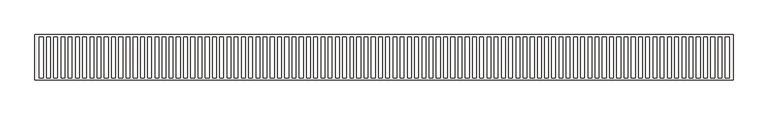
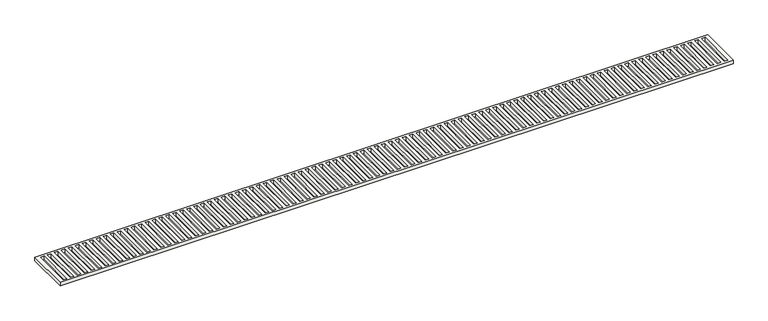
"""IFC4 building model written with IfcOpenShell, lengths in millimetres: slab geometry, REGUERA_METÁLICA3 : REGUERA_METÁLICA-03."""

from ifc_helpers import new_model, si_unit, frame, origin, place, context, project, spatial, polyline, outline, extrude, source, transform, mapped, element, save


def slab_2fa19d57(model_context):
    return source(origin(), model_context, "Body", "SweptSolid", [
        extrude(outline(polyline([(-5970.0557705, -10500.5617629), (3227.1464348, -10500.5617629), (3227.1464348, -11100.4621908), (-5970.0557705, -11100.4621908), (-5970.0557705, -10500.5617629)]), holes=[polyline([(653.3155136, -10530.5865708), (653.3155136, -11070.5399406), (696.8338857, -11070.5399406), (696.8338857, -10530.5865708), (653.3155136, -10530.5865708)]), polyline([(744.4588857, -10530.5865708), (744.4588857, -11070.5471391), (792.0838857, -11070.5471391), (792.0838857, -10530.5865708), (744.4588857, -10530.5865708)]), polyline([(839.7088857, -10530.5865708), (839.7088857, -11070.5471391), (887.3338857, -11070.5471391), (887.3338857, -10530.5865708), (839.7088857, -10530.5865708)]), polyline([(934.9588857, -10530.5865708), (934.9588857, -11070.5471391), (982.5838857, -11070.5471391), (982.5838857, -10530.5865708), (934.9588857, -10530.5865708)]), polyline([(1030.2088857, -10530.5865708), (1030.2088857, -11070.5471391), (1077.8338857, -11070.5471391), (1077.8338857, -10530.5865708), (1030.2088857, -10530.5865708)]), polyline([(1125.4588857, -10530.5865708), (1125.4588857, -11070.5471391), (1173.0838857, -11070.5471391), (1173.0838857, -10530.5865708), (1125.4588857, -10530.5865708)]), polyline([(1220.7088857, -10530.5865708), (1220.7088857, -11070.5471391), (1268.3338857, -11070.5471391), (1268.3338857, -10530.5865708), (1220.7088857, -10530.5865708)]), polyline([(1315.9588857, -10530.5865708), (1315.9588857, -11070.5471391), (1363.5838857, -11070.5471391), (1363.5838857, -10530.5865708), (1315.9588857, -10530.5865708)]), polyline([(1411.2088857, -10530.5865708), (1411.2088857, -11070.5471391), (1458.8338857, -11070.5471391), (1458.8338857, -10530.5865708), (1411.2088857, -10530.5865708)]), polyline([(1506.4588857, -10530.5865708), (1506.4588857, -11070.5471391), (1554.0838857, -11070.5471391), (1554.0838857, -10530.5865708), (1506.4588857, -10530.5865708)]), polyline([(1601.7088857, -10530.5865708), (1601.7088857, -11070.5471391), (1649.3338857, -11070.5471391), (1649.3338857, -10530.5865708), (1601.7088857, -10530.5865708)]), polyline([(1696.9588857, -10530.5865708), (1696.9588857, -11070.5471391), (1744.5838857, -11070.5471391), (1744.5838857, -10530.5865708), (1696.9588857, -10530.5865708)]), polyline([(1792.2088857, -10530.5865708), (1792.2088857, -11070.5471391), (1839.8338857, -11070.5471391), (1839.8338857, -10530.5865708), (1792.2088857, -10530.5865708)]), polyline([(1887.4588857, -10530.5865708), (1887.4588857, -11070.5471391), (1935.0838857, -11070.5471391), (1935.0838857, -10530.5865708), (1887.4588857, -10530.5865708)]), polyline([(1982.7088857, -10530.5865708), (1982.7088857, -11070.5471391), (2030.3338857, -11070.5471391), (2030.3338857, -10530.5865708), (1982.7088857, -10530.5865708)]), polyline([(2077.9588857, -10530.5865708), (2077.9588857, -11070.5471391), (2125.5838857, -11070.5471391), (2125.5838857, -10530.5865708), (2077.9588857, -10530.5865708)]), polyline([(2173.2088857, -10530.5865708), (2173.2088857, -11070.5471391), (2220.8338857, -11070.5471391), (2220.8338857, -10530.5865708), (2173.2088857, -10530.5865708)]), polyline([(2268.4588857, -10530.5865708), (2268.4588857, -11070.5471391), (2316.0838857, -11070.5471391), (2316.0838857, -10530.5865708), (2268.4588857, -10530.5865708)]), polyline([(2363.7088857, -10530.5865708), (2363.7088857, -11070.5471391), (2411.3338857, -11070.5471391), (2411.3338857, -10530.5865708), (2363.7088857, -10530.5865708)]), polyline([(2458.9588857, -10530.5865708), (2458.9588857, -11070.5471391), (2506.5838857, -11070.5471391), (2506.5838857, -10530.5865708), (2458.9588857, -10530.5865708)]), polyline([(2554.2088857, -10530.5865708), (2554.2088857, -11070.5471391), (2601.8338857, -11070.5471391), (2601.8338857, -10530.5865708), (2554.2088857, -10530.5865708)]), polyline([(2649.4588857, -10530.5865708), (2649.4588857, -11070.5471391), (2697.0838857, -11070.5471391), (2697.0838857, -10530.5865708), (2649.4588857, -10530.5865708)]), polyline([(2744.7088857, -10530.5865708), (2744.7088857, -11070.5471391), (2792.3338857, -11070.5471391), (2792.3338857, -10530.5865708), (2744.7088857, -10530.5865708)]), polyline([(2839.9588857, -10530.5865708), (2839.9588857, -11070.5471391), (2887.5838857, -11070.5471391), (2887.5838857, -10530.5865708), (2839.9588857, -10530.5865708)]), polyline([(2935.2088857, -10530.5865708), (2935.2088857, -11070.5471391), (2982.8338857, -11070.5471391), (2982.8338857, -10530.5865708), (2935.2088857, -10530.5865708)]), polyline([(3030.4588857, -10530.5865708), (3030.4588857, -11070.5471391), (3078.0838857, -11070.5471391), (3078.0838857, -10530.5865708), (3030.4588857, -10530.5865708)]), polyline([(3125.7088857, -10530.5865708), (3125.7088857, -11070.5471391), (3173.3338857, -11070.5471391), (3173.3338857, -10530.5865708), (3125.7088857, -10530.5865708)]), polyline([(-1819.0778585, -10530.5865708), (-1819.0778585, -11070.5399406), (-1775.5594864, -11070.5399406), (-1775.5594864, -10530.5865708), (-1819.0778585, -10530.5865708)]), polyline([(-1727.9344864, -10530.5865708), (-1727.9344864, -11070.5471391), (-1680.3094864, -11070.5471391), (-1680.3094864, -10530.5865708), (-1727.9344864, -10530.5865708)]), polyline([(-1632.6844864, -10530.5865708), (-1632.6844864, -11070.5471391), (-1585.0594864, -11070.5471391), (-1585.0594864, -10530.5865708), (-1632.6844864, -10530.5865708)]), polyline([(-1537.4344864, -10530.5865708), (-1537.4344864, -11070.5471391), (-1489.8094864, -11070.5471391), (-1489.8094864, -10530.5865708), (-1537.4344864, -10530.5865708)]), polyline([(-1442.1844864, -10530.5865708), (-1442.1844864, -11070.5471391), (-1394.5594864, -11070.5471391), (-1394.5594864, -10530.5865708), (-1442.1844864, -10530.5865708)]), polyline([(-1346.9344864, -10530.5865708), (-1346.9344864, -11070.5471391), (-1299.3094864, -11070.5471391), (-1299.3094864, -10530.5865708), (-1346.9344864, -10530.5865708)]), polyline([(-1251.6844864, -10530.5865708), (-1251.6844864, -11070.5471391), (-1204.0594864, -11070.5471391), (-1204.0594864, -10530.5865708), (-1251.6844864, -10530.5865708)]), polyline([(-1156.4344864, -10530.5865708), (-1156.4344864, -11070.5471391), (-1108.8094864, -11070.5471391), (-1108.8094864, -10530.5865708), (-1156.4344864, -10530.5865708)]), polyline([(-1061.1844864, -10530.5865708), (-1061.1844864, -11070.5471391), (-1013.5594864, -11070.5471391), (-1013.5594864, -10530.5865708), (-1061.1844864, -10530.5865708)]), polyline([(-965.9344864, -10530.5865708), (-965.9344864, -11070.5471391), (-918.3094864, -11070.5471391), (-918.3094864, -10530.5865708), (-965.9344864, -10530.5865708)]), polyline([(-870.6844864, -10530.5865708), (-870.6844864, -11070.5471391), (-823.0594864, -11070.5471391), (-823.0594864, -10530.5865708), (-870.6844864, -10530.5865708)]), polyline([(-775.4344864, -10530.5865708), (-775.4344864, -11070.5471391), (-727.8094864, -11070.5471391), (-727.8094864, -10530.5865708), (-775.4344864, -10530.5865708)]), polyline([(-680.1844864, -10530.5865708), (-680.1844864, -11070.5471391), (-632.5594864, -11070.5471391), (-632.5594864, -10530.5865708), (-680.1844864, -10530.5865708)]), polyline([(-584.9344864, -10530.5865708), (-584.9344864, -11070.5471391), (-537.3094864, -11070.5471391), (-537.3094864, -10530.5865708), (-584.9344864, -10530.5865708)]), polyline([(-489.6844864, -10530.5865708), (-489.6844864, -11070.5471391), (-442.0594864, -11070.5471391), (-442.0594864, -10530.5865708), (-489.6844864, -10530.5865708)]), polyline([(-394.4344864, -10530.5865708), (-394.4344864, -11070.5471391), (-346.8094864, -11070.5471391), (-346.8094864, -10530.5865708), (-394.4344864, -10530.5865708)]), polyline([(-299.1844864, -10530.5865708), (-299.1844864, -11070.5471391), (-251.5594864, -11070.5471391), (-251.5594864, -10530.5865708), (-299.1844864, -10530.5865708)]), polyline([(-203.9344864, -10530.5865708), (-203.9344864, -11070.5471391), (-156.3094864, -11070.5471391), (-156.3094864, -10530.5865708), (-203.9344864, -10530.5865708)]), polyline([(-108.6844864, -10530.5865708), (-108.6844864, -11070.5471391), (-61.0594864, -11070.5471391), (-61.0594864, -10530.5865708), (-108.6844864, -10530.5865708)]), polyline([(-13.4344864, -10530.5865708), (-13.4344864, -11070.5471391), (34.1905136, -11070.5471391), (34.1905136, -10530.5865708), (-13.4344864, -10530.5865708)]), polyline([(81.8155136, -10530.5865708), (81.8155136, -11070.5471391), (129.4405136, -11070.5471391), (129.4405136, -10530.5865708), (81.8155136, -10530.5865708)]), polyline([(177.0655136, -10530.5865708), (177.0655136, -11070.5471391), (224.6905136, -11070.5471391), (224.6905136, -10530.5865708), (177.0655136, -10530.5865708)]), polyline([(272.3155136, -10530.5865708), (272.3155136, -11070.5471391), (319.9405136, -11070.5471391), (319.9405136, -10530.5865708), (272.3155136, -10530.5865708)]), polyline([(367.5655136, -10530.5865708), (367.5655136, -11070.5471391), (415.1905136, -11070.5471391), (415.1905136, -10530.5865708), (367.5655136, -10530.5865708)]), polyline([(462.8155136, -10530.5865708), (462.8155136, -11070.5471391), (510.4405136, -11070.5471391), (510.4405136, -10530.5865708), (462.8155136, -10530.5865708)]), polyline([(558.0655136, -10530.5865708), (558.0655136, -11070.5471391), (605.6905136, -11070.5471391), (605.6905136, -10530.5865708), (558.0655136, -10530.5865708)]), polyline([(-4291.4712306, -10530.5865708), (-4291.4712306, -11070.5399406), (-4247.9528585, -11070.5399406), (-4247.9528585, -10530.5865708), (-4291.4712306, -10530.5865708)]), polyline([(-4200.3278585, -10530.5865708), (-4200.3278585, -11070.5471391), (-4152.7028585, -11070.5471391), (-4152.7028585, -10530.5865708), (-4200.3278585, -10530.5865708)]), polyline([(-4105.0778585, -10530.5865708), (-4105.0778585, -11070.5471391), (-4057.4528585, -11070.5471391), (-4057.4528585, -10530.5865708), (-4105.0778585, -10530.5865708)]), polyline([(-4009.8278585, -10530.5865708), (-4009.8278585, -11070.5471391), (-3962.2028585, -11070.5471391), (-3962.2028585, -10530.5865708), (-4009.8278585, -10530.5865708)]), polyline([(-3914.5778585, -10530.5865708), (-3914.5778585, -11070.5471391), (-3866.9528585, -11070.5471391), (-3866.9528585, -10530.5865708), (-3914.5778585, -10530.5865708)]), polyline([(-3819.3278585, -10530.5865708), (-3819.3278585, -11070.5471391), (-3771.7028585, -11070.5471391), (-3771.7028585, -10530.5865708), (-3819.3278585, -10530.5865708)]), polyline([(-3724.0778585, -10530.5865708), (-3724.0778585, -11070.5471391), (-3676.4528585, -11070.5471391), (-3676.4528585, -10530.5865708), (-3724.0778585, -10530.5865708)]), polyline([(-3628.8278585, -10530.5865708), (-3628.8278585, -11070.5471391), (-3581.2028585, -11070.5471391), (-3581.2028585, -10530.5865708), (-3628.8278585, -10530.5865708)]), polyline([(-3533.5778585, -10530.5865708), (-3533.5778585, -11070.5471391), (-3485.9528585, -11070.5471391), (-3485.9528585, -10530.5865708), (-3533.5778585, -10530.5865708)]), polyline([(-3438.3278585, -10530.5865708), (-3438.3278585, -11070.5471391), (-3390.7028585, -11070.5471391), (-3390.7028585, -10530.5865708), (-3438.3278585, -10530.5865708)]), polyline([(-3343.0778585, -10530.5865708), (-3343.0778585, -11070.5471391), (-3295.4528585, -11070.5471391), (-3295.4528585, -10530.5865708), (-3343.0778585, -10530.5865708)]), polyline([(-3247.8278585, -10530.5865708), (-3247.8278585, -11070.5471391), (-3200.2028585, -11070.5471391), (-3200.2028585, -10530.5865708), (-3247.8278585, -10530.5865708)]), polyline([(-3152.5778585, -10530.5865708), (-3152.5778585, -11070.5471391), (-3104.9528585, -11070.5471391), (-3104.9528585, -10530.5865708), (-3152.5778585, -10530.5865708)]), polyline([(-3057.3278585, -10530.5865708), (-3057.3278585, -11070.5471391), (-3009.7028585, -11070.5471391), (-3009.7028585, -10530.5865708), (-3057.3278585, -10530.5865708)]), polyline([(-2962.0778585, -10530.5865708), (-2962.0778585, -11070.5471391), (-2914.4528585, -11070.5471391), (-2914.4528585, -10530.5865708), (-2962.0778585, -10530.5865708)]), polyline([(-2866.8278585, -10530.5865708), (-2866.8278585, -11070.5471391), (-2819.2028585, -11070.5471391), (-2819.2028585, -10530.5865708), (-2866.8278585, -10530.5865708)]), polyline([(-2771.5778585, -10530.5865708), (-2771.5778585, -11070.5471391), (-2723.9528585, -11070.5471391), (-2723.9528585, -10530.5865708), (-2771.5778585, -10530.5865708)]), polyline([(-2676.3278585, -10530.5865708), (-2676.3278585, -11070.5471391), (-2628.7028585, -11070.5471391), (-2628.7028585, -10530.5865708), (-2676.3278585, -10530.5865708)]), polyline([(-2581.0778585, -10530.5865708), (-2581.0778585, -11070.5471391), (-2533.4528585, -11070.5471391), (-2533.4528585, -10530.5865708), (-2581.0778585, -10530.5865708)]), polyline([(-2485.8278585, -10530.5865708), (-2485.8278585, -11070.5471391), (-2438.2028585, -11070.5471391), (-2438.2028585, -10530.5865708), (-2485.8278585, -10530.5865708)]), polyline([(-2390.5778585, -10530.5865708), (-2390.5778585, -11070.5471391), (-2342.9528585, -11070.5471391), (-2342.9528585, -10530.5865708), (-2390.5778585, -10530.5865708)]), polyline([(-2295.3278585, -10530.5865708), (-2295.3278585, -11070.5471391), (-2247.7028585, -11070.5471391), (-2247.7028585, -10530.5865708), (-2295.3278585, -10530.5865708)]), polyline([(-2200.0778585, -10530.5865708), (-2200.0778585, -11070.5471391), (-2152.4528585, -11070.5471391), (-2152.4528585, -10530.5865708), (-2200.0778585, -10530.5865708)]), polyline([(-2104.8278585, -10530.5865708), (-2104.8278585, -11070.5471391), (-2057.2028585, -11070.5471391), (-2057.2028585, -10530.5865708), (-2104.8278585, -10530.5865708)]), polyline([(-2009.5778585, -10530.5865708), (-2009.5778585, -11070.5471391), (-1961.9528585, -11070.5471391), (-1961.9528585, -10530.5865708), (-2009.5778585, -10530.5865708)]), polyline([(-1914.3278585, -10530.5865708), (-1914.3278585, -11070.5471391), (-1866.7028585, -11070.5471391), (-1866.7028585, -10530.5865708), (-1914.3278585, -10530.5865708)]), polyline([(-5910.7212306, -10530.5865708), (-5910.7212306, -11070.5471391), (-5863.0962306, -11070.5471391), (-5863.0962306, -10530.5865708), (-5910.7212306, -10530.5865708)]), polyline([(-5815.4712306, -10530.5865708), (-5815.4712306, -11070.5471391), (-5767.8462306, -11070.5471391), (-5767.8462306, -10530.5865708), (-5815.4712306, -10530.5865708)]), polyline([(-5720.2212306, -10530.5865708), (-5720.2212306, -11070.5471391), (-5672.5962306, -11070.5471391), (-5672.5962306, -10530.5865708), (-5720.2212306, -10530.5865708)]), polyline([(-5624.9712306, -10530.5865708), (-5624.9712306, -11070.5471391), (-5577.3462306, -11070.5471391), (-5577.3462306, -10530.5865708), (-5624.9712306, -10530.5865708)]), polyline([(-5529.7212306, -10530.5865708), (-5529.7212306, -11070.5471391), (-5482.0962306, -11070.5471391), (-5482.0962306, -10530.5865708), (-5529.7212306, -10530.5865708)]), polyline([(-5434.4712306, -10530.5865708), (-5434.4712306, -11070.5471391), (-5386.8462306, -11070.5471391), (-5386.8462306, -10530.5865708), (-5434.4712306, -10530.5865708)]), polyline([(-5339.2212306, -10530.5865708), (-5339.2212306, -11070.5471391), (-5291.5962306, -11070.5471391), (-5291.5962306, -10530.5865708), (-5339.2212306, -10530.5865708)]), polyline([(-5243.9712306, -10530.5865708), (-5243.9712306, -11070.5471391), (-5196.3462306, -11070.5471391), (-5196.3462306, -10530.5865708), (-5243.9712306, -10530.5865708)]), polyline([(-5148.7212306, -10530.5865708), (-5148.7212306, -11070.5471391), (-5101.0962306, -11070.5471391), (-5101.0962306, -10530.5865708), (-5148.7212306, -10530.5865708)]), polyline([(-5053.4712306, -10530.5865708), (-5053.4712306, -11070.5471391), (-5005.8462306, -11070.5471391), (-5005.8462306, -10530.5865708), (-5053.4712306, -10530.5865708)]), polyline([(-4958.2212306, -10530.5865708), (-4958.2212306, -11070.5471391), (-4910.5962306, -11070.5471391), (-4910.5962306, -10530.5865708), (-4958.2212306, -10530.5865708)]), polyline([(-4862.9712306, -10530.5865708), (-4862.9712306, -11070.5471391), (-4815.3462306, -11070.5471391), (-4815.3462306, -10530.5865708), (-4862.9712306, -10530.5865708)]), polyline([(-4767.7212306, -10530.5865708), (-4767.7212306, -11070.5471391), (-4720.0962306, -11070.5471391), (-4720.0962306, -10530.5865708), (-4767.7212306, -10530.5865708)]), polyline([(-4672.4712306, -10530.5865708), (-4672.4712306, -11070.5471391), (-4624.8462306, -11070.5471391), (-4624.8462306, -10530.5865708), (-4672.4712306, -10530.5865708)]), polyline([(-4577.2212306, -10530.5865708), (-4577.2212306, -11070.5471391), (-4529.5962306, -11070.5471391), (-4529.5962306, -10530.5865708), (-4577.2212306, -10530.5865708)]), polyline([(-4481.9712306, -10530.5865708), (-4481.9712306, -11070.5471391), (-4434.3462306, -11070.5471391), (-4434.3462306, -10530.5865708), (-4481.9712306, -10530.5865708)]), polyline([(-4386.7212306, -10530.5865708), (-4386.7212306, -11070.5471391), (-4339.0962306, -11070.5471391), (-4339.0962306, -10530.5865708), (-4386.7212306, -10530.5865708)])]), frame((0.0, 0.0, 1430.0), z_axis=(0.0, 0.0, 1.0), x_axis=(1.0, 0.0, 0.0)), (0.0, 0.0, 1.0), 50.0),
    ])


if __name__ == "__main__":
    model = new_model("IFC4")
    model_context = context("Model", 3, world=origin())
    ifc_project = project(units=[si_unit("LENGTHUNIT", "METRE", prefix="MILLI")], contexts=[model_context])
    site = spatial("IfcSite", under=ifc_project)
    building = spatial("IfcBuilding", under=site)
    placement = place(None, origin())
    slab_shape = slab_2fa19d57(model_context)
    element("IfcSlab", 1, ObjectType="REGUERA_METÁLICA3 : REGUERA_METÁLICA-03", at=placement, inside=building, context=model_context, shape_type="MappedRepresentation", body=[
        mapped(slab_shape, transform((0.0, 0.0, 0.0), x_axis=(1.0, 0.0, 0.0), y_axis=(0.0, 1.0, 0.0), z_axis=(0.0, 0.0, 1.0))),
    ])
    save(model, "model.ifc")
